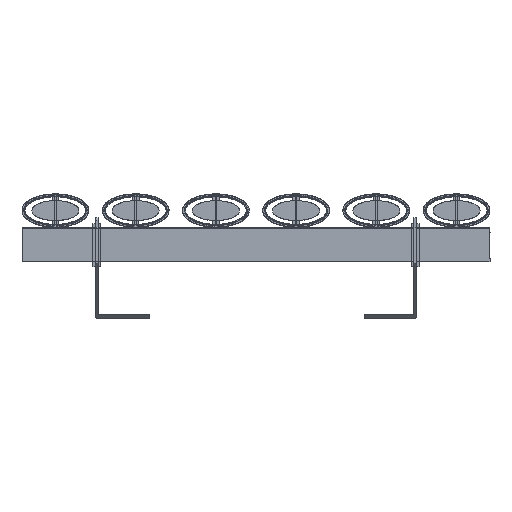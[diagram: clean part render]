
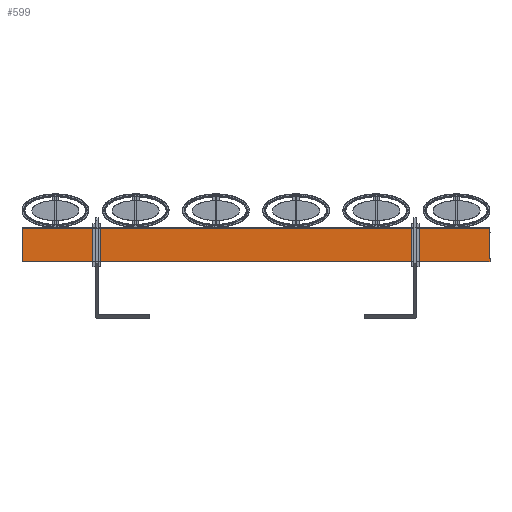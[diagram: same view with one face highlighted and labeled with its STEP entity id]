
A CAD part, front view. The second image highlights one B-rep face of the part: STEP entity #599.
In plain terms, the highlighted planar face has unit normal (0, -1, 0) as drawn and (-1, 0, 0) by its records, which use the part's own axes.
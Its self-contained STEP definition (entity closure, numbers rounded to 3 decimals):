
#161 = AXIS2_PLACEMENT_3D ( 'NONE', #10408, #10409, #10410 ) ;
#599 = ADVANCED_FACE ( 'NONE', ( #7624 ), #10407, .F. ) ;
#1165 = ORIENTED_EDGE ( 'NONE', *, *, #8556, .T. ) ;
#1166 = ORIENTED_EDGE ( 'NONE', *, *, #8557, .F. ) ;
#1167 = ORIENTED_EDGE ( 'NONE', *, *, #8558, .F. ) ;
#1168 = ORIENTED_EDGE ( 'NONE', *, *, #8554, .T. ) ;
#4624 = EDGE_LOOP ( 'NONE', ( #1165, #1166, #1167, #1168 ) ) ;
#5028 = CARTESIAN_POINT ( 'NONE',  ( -14.25, 350., -12.45 ) ) ;
#5029 = DIRECTION ( 'NONE',  ( 0., -1., 0. ) ) ;
#5033 = CARTESIAN_POINT ( 'NONE',  ( -14.25, 0., 0. ) ) ;
#5034 = DIRECTION ( 'NONE',  ( 0., 0., 1. ) ) ;
#5035 = CARTESIAN_POINT ( 'NONE',  ( -14.25, 350., 12.45 ) ) ;
#5036 = DIRECTION ( 'NONE',  ( 0., -1., 0. ) ) ;
#5037 = CARTESIAN_POINT ( 'NONE',  ( -14.25, 350., 0. ) ) ;
#5039 = DIRECTION ( 'NONE',  ( 0., 0., 1. ) ) ;
#6130 = LINE ( 'NONE', #5028, #6132 ) ;
#6132 = VECTOR ( 'NONE', #5029, 1000. ) ;
#6133 = LINE ( 'NONE', #5033, #6135 ) ;
#6135 = VECTOR ( 'NONE', #5034, 1000. ) ;
#6136 = LINE ( 'NONE', #5035, #6137 ) ;
#6137 = VECTOR ( 'NONE', #5036, 1000. ) ;
#6138 = LINE ( 'NONE', #5037, #6139 ) ;
#6139 = VECTOR ( 'NONE', #5039, 1000. ) ;
#6881 = VERTEX_POINT ( 'NONE', #11161 ) ;
#6882 = VERTEX_POINT ( 'NONE', #11162 ) ;
#6883 = VERTEX_POINT ( 'NONE', #11163 ) ;
#6884 = VERTEX_POINT ( 'NONE', #11164 ) ;
#7624 = FACE_OUTER_BOUND ( 'NONE', #4624, .T. ) ;
#8554 = EDGE_CURVE ( 'NONE', #6882, #6881, #6130, .T. ) ;
#8556 = EDGE_CURVE ( 'NONE', #6881, #6883, #6133, .T. ) ;
#8557 = EDGE_CURVE ( 'NONE', #6884, #6883, #6136, .T. ) ;
#8558 = EDGE_CURVE ( 'NONE', #6882, #6884, #6138, .T. ) ;
#10407 = PLANE ( 'NONE',  #161 ) ;
#10408 = CARTESIAN_POINT ( 'NONE',  ( -14.25, 350., 0. ) ) ;
#10409 = DIRECTION ( 'NONE',  ( 1., 0., 0. ) ) ;
#10410 = DIRECTION ( 'NONE',  ( 0., 0., -1. ) ) ;
#11161 = CARTESIAN_POINT ( 'NONE',  ( -14.25, 0., -12.45 ) ) ;
#11162 = CARTESIAN_POINT ( 'NONE',  ( -14.25, 350., -12.45 ) ) ;
#11163 = CARTESIAN_POINT ( 'NONE',  ( -14.25, 0., 12.45 ) ) ;
#11164 = CARTESIAN_POINT ( 'NONE',  ( -14.25, 350., 12.45 ) ) ;
